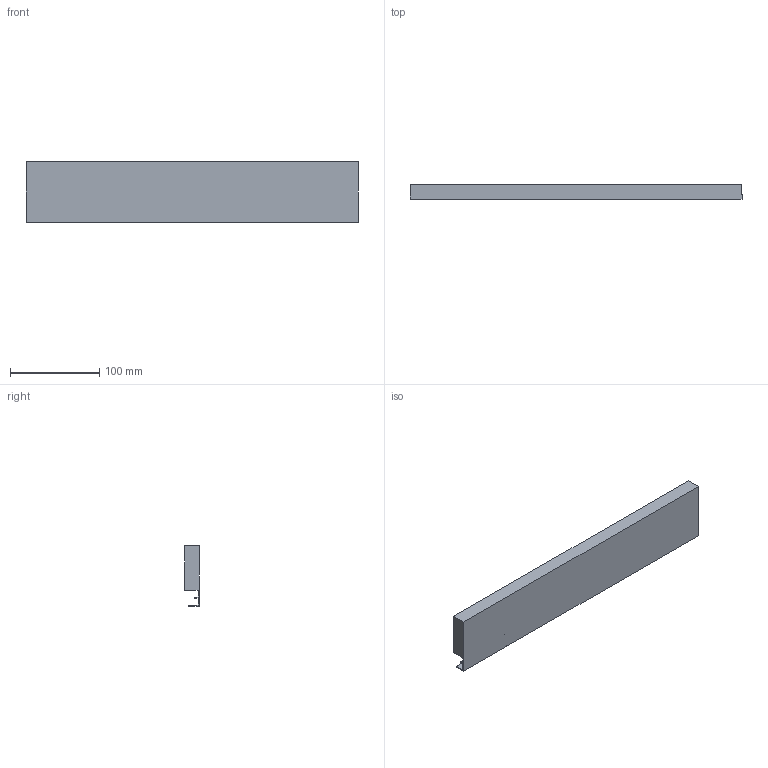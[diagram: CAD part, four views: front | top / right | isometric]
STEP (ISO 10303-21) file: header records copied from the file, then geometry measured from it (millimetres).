
FILE_DESCRIPTION (( 'STEP AP214' ), '1' );
FILE_NAME ('Innenschub-Blendenprofil_KAB500_S18.step', '2010-09-23T12:26:58', ( 'grass' ), ( '' ), 'SwSTEP 2.0', 'SolidWorks 2010', '' );
FILE_SCHEMA (( 'AUTOMOTIVE_DESIGN' ));
Length unit declared in the file: millimetre
Products named in the file (1): Innenschub-Blendenprofil_KAB500_S18
Bounding box: 373 x 15.9 x 67.6 mm (x, y, z)
Volume: 309255.3 mm3; surface area: 74875.6 mm2
Topology: 1 solids, 1 shells, 17 faces, 42 edges, 28 vertices
Faces by surface type: plane 15, cylinder 2
Entity records: 534 total; most frequent: CARTESIAN_POINT 88, ORIENTED_EDGE 84, DIRECTION 82, EDGE_CURVE 42, VECTOR 38, LINE 38, VERTEX_POINT 28, AXIS2_PLACEMENT_3D 22
